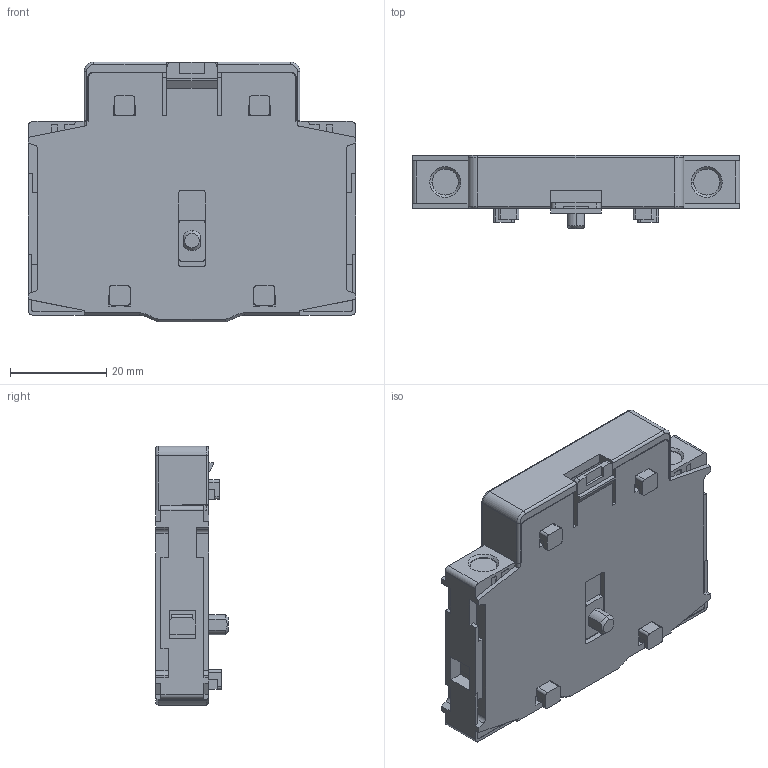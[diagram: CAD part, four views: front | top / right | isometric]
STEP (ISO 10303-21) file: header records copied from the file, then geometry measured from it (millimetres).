
FILE_DESCRIPTION (( 'STEP AP203' ), '1' );
FILE_NAME ('NF2-40PS.STEP', '2024-03-01T04:43:03', ( 'wzjh' ), ( '' ), 'SwSTEP 2.0', 'SolidWorks 2023', '' );
FILE_SCHEMA (( 'CONFIG_CONTROL_DESIGN' ));
Length unit declared in the file: millimetre
Products named in the file (1): NF2-40PS
Bounding box: 68 x 15.1 x 53.88 mm (x, y, z)
Volume: 34836.9 mm3; surface area: 13589.3 mm2
Topology: 1 solids, 3 shells, 705 faces, 1978 edges, 1303 vertices
Faces by surface type: plane 593, cylinder 92, cone 16, torus 4
Entity records: 22484 total; most frequent: CARTESIAN_POINT 4075, ORIENTED_EDGE 3956, DIRECTION 3573, EDGE_CURVE 1978, VECTOR 1763, LINE 1763, VERTEX_POINT 1303, AXIS2_PLACEMENT_3D 905
